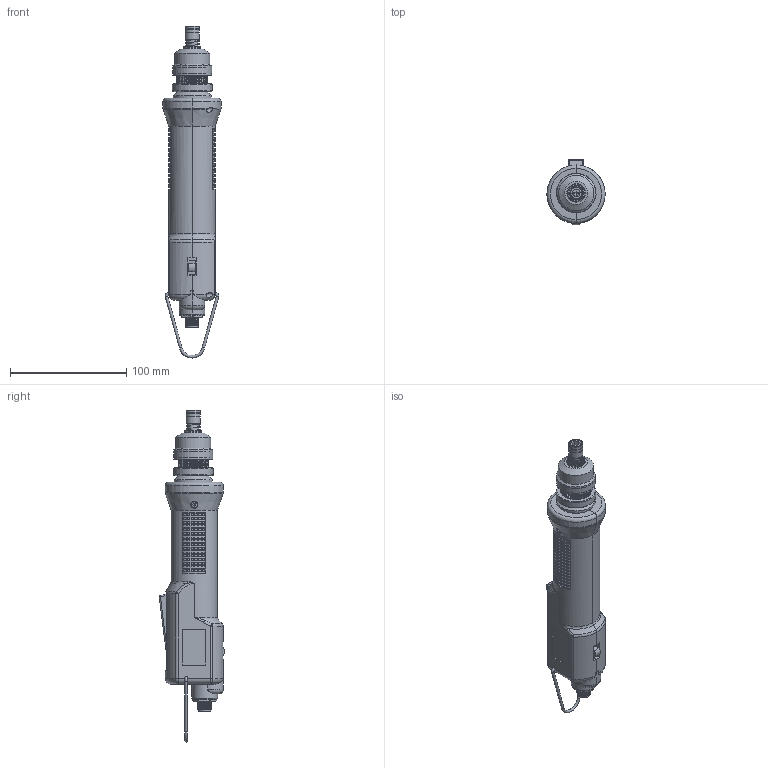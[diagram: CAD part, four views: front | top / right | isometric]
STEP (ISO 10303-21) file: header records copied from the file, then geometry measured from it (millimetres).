
FILE_DESCRIPTION (( 'STEP AP214' ), '1' );
FILE_NAME ('RAF.STEP', '2024-03-08T07:43:01', ( '' ), ( '' ), 'SwSTEP 2.0', 'SolidWorks 2022', '' );
FILE_SCHEMA (( 'AUTOMOTIVE_DESIGN' ));
Length unit declared in the file: millimetre
Products named in the file (1): RAF
Bounding box: 50 x 56.27 x 285.1 mm (x, y, z)
Surface area: 45565.6 mm2 (no closed solid volume)
Topology: 0 solids, 40 shells, 1412 faces, 4259 edges, 3018 vertices
Faces by surface type: plane 888, cylinder 361, bspline 99, torus 31, cone 24, sphere 9
Full cylindrical faces by diameter (mm): 1 x8, 2.2 x2, 4 x4, 5.5 x2, 6 x2, 8.3 x1, 9.4 x1, 9.5 x1, 9.75 x2, 10.8 x1, 11.8 x2, 12 x4, 14 x1, 14.95 x2, 30.2 x1, 33 x1, 33.3 x1, 33.4 x2, 34 x1
Entity records: 103091 total; most frequent: CARTESIAN_POINT 51307, ORIENTED_EDGE 7296, DIRECTION 7061, EDGE_CURVE 4135, VERTEX_POINT 2982, AXIS2_PLACEMENT_3D 2405, LINE 2251, VECTOR 2251
